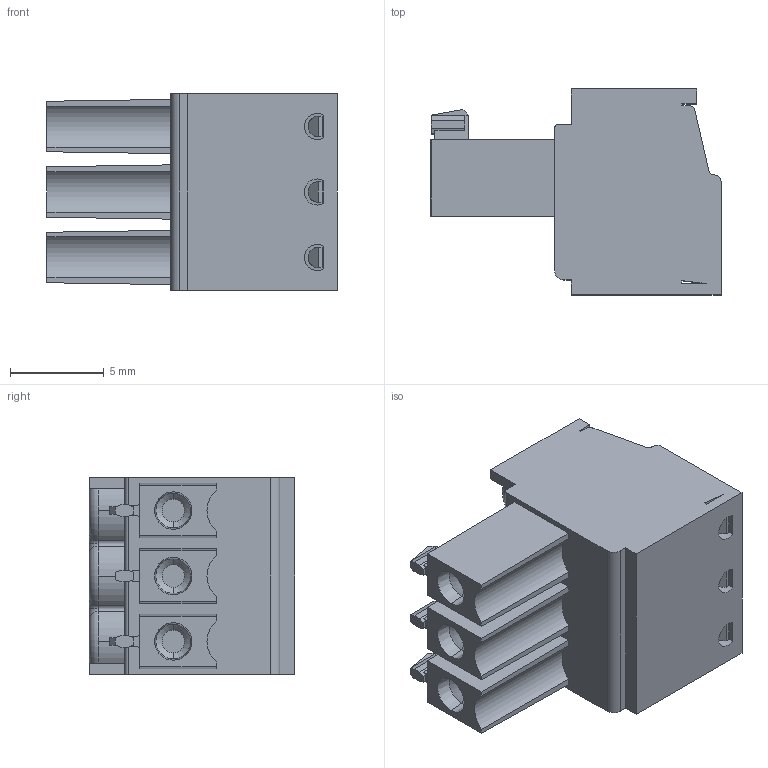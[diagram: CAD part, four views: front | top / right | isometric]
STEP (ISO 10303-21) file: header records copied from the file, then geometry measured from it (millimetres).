
FILE_DESCRIPTION (( 'STEP AP214' ), '1' );
FILE_NAME ('110-A-111-03.STEP', '2007-09-25T06:49:58', ( ' ' ), ( '' ), 'SwSTEP 2.0', 'SolidWorks 2007', '' );
FILE_SCHEMA (( 'AUTOMOTIVE_DESIGN' ));
Length unit declared in the file: millimetre
Products named in the file (1): 110-A-111-03
Bounding box: 15.5 x 11 x 10.5 mm (x, y, z)
Volume: 1036.2 mm3; surface area: 1197.8 mm2
Topology: 1 solids, 2 shells, 435 faces, 1112 edges, 705 vertices
Faces by surface type: plane 252, cylinder 95, cone 45, torus 22, bspline 21
Entity records: 13865 total; most frequent: CARTESIAN_POINT 3406, ORIENTED_EDGE 2224, DIRECTION 2111, EDGE_CURVE 1112, VECTOR 719, LINE 719, VERTEX_POINT 705, AXIS2_PLACEMENT_3D 696
